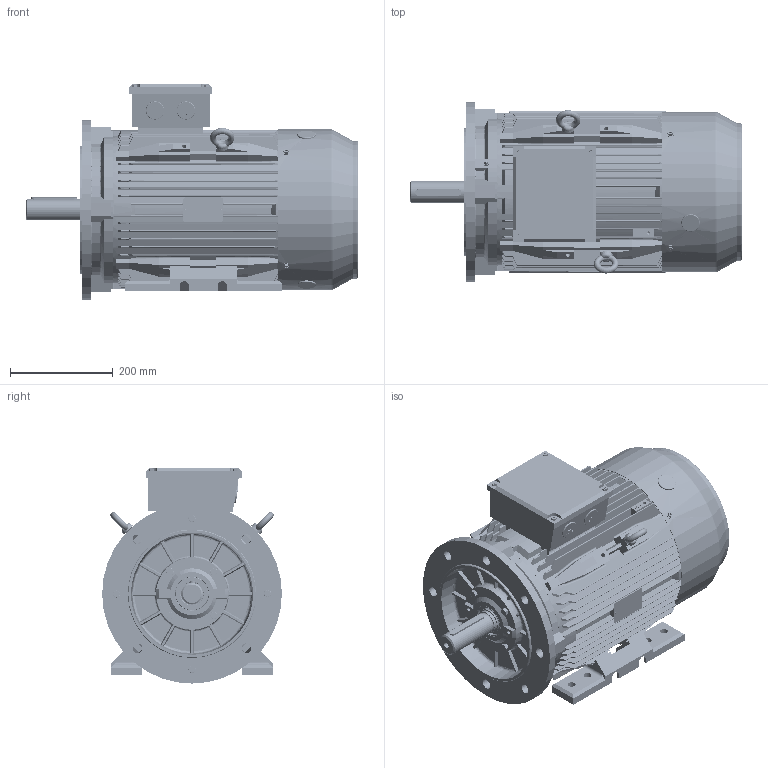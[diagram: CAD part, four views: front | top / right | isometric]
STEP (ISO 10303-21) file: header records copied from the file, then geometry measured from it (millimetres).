
FILE_DESCRIPTION (( 'STEP AP214' ), '1' );
FILE_NAME ('BCT3150.16H435.11.STEP', '2020-04-23T11:41:43', ( '' ), ( '' ), 'SwSTEP 2.0', 'SolidWorks 2019', '' );
FILE_SCHEMA (( 'AUTOMOTIVE_DESIGN' ));
Length unit declared in the file: millimetre
Products named in the file (1): BCT3150.16H435.11
Bounding box: 646.5 x 350 x 419 mm (x, y, z)
Volume: 10130616.2 mm3; surface area: 3000192.6 mm2
Topology: 53 solids, 54 shells, 6942 faces, 19862 edges, 12977 vertices
Faces by surface type: plane 3296, cylinder 2554, cone 458, torus 414, bspline 116, sphere 104
Entity records: 270032 total; most frequent: CARTESIAN_POINT 86826, ORIENTED_EDGE 39296, DIRECTION 37108, EDGE_CURVE 19648, AXIS2_PLACEMENT_3D 13058, VERTEX_POINT 12925, VECTOR 10992, LINE 10992
